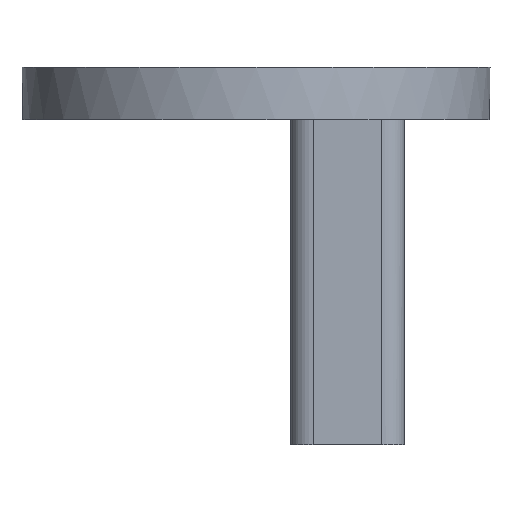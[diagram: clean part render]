
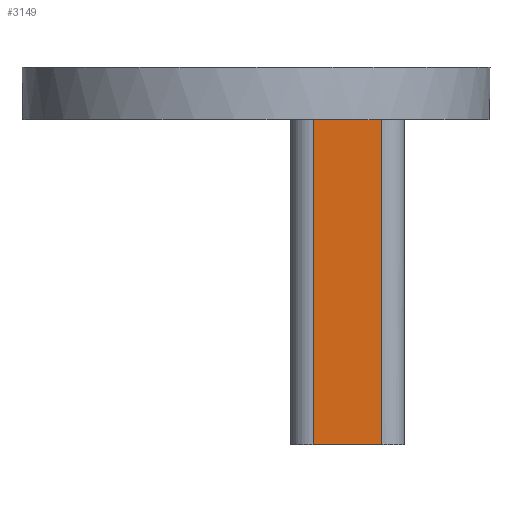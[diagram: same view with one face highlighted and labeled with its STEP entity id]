
A CAD part, left-side view. The second image highlights one B-rep face of the part: STEP entity #3149.
In plain terms, the highlighted planar face has unit normal (-1, 0, 0).
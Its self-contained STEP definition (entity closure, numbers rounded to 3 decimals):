
#243 = PLANE('',#244);
#244 = AXIS2_PLACEMENT_3D('',#245,#246,#247);
#245 = CARTESIAN_POINT('',(0.,0.,0.));
#246 = DIRECTION('',(0.,0.,1.));
#247 = DIRECTION('',(1.,0.,-0.));
#1060 = CYLINDRICAL_SURFACE('',#1061,2.);
#1061 = AXIS2_PLACEMENT_3D('',#1062,#1063,#1064);
#1062 = CARTESIAN_POINT('',(41.,-11.,-28.5));
#1063 = DIRECTION('',(0.,0.,1.));
#1064 = DIRECTION('',(-1.,-0.,0.));
#1114 = VERTEX_POINT('',#1115);
#1115 = CARTESIAN_POINT('',(39.,-11.,0.));
#1137 = EDGE_CURVE('',#1114,#1138,#1140,.T.);
#1138 = VERTEX_POINT('',#1139);
#1139 = CARTESIAN_POINT('',(39.,-5.,0.));
#1140 = SURFACE_CURVE('',#1141,(#1145,#1151),.PCURVE_S1.);
#1141 = LINE('',#1142,#1143);
#1142 = CARTESIAN_POINT('',(39.,-6.5,0.));
#1143 = VECTOR('',#1144,1.);
#1144 = DIRECTION('',(-0.,1.,0.));
#1145 = PCURVE('',#243,#1146);
#1146 = DEFINITIONAL_REPRESENTATION('',(#1147),#1150);
#1147 = B_SPLINE_CURVE_WITH_KNOTS('',1,(#1148,#1149),.UNSPECIFIED.,.F.,
  .F.,(2,2),(-4.5,1.5),.PIECEWISE_BEZIER_KNOTS.);
#1148 = CARTESIAN_POINT('',(39.,-11.));
#1149 = CARTESIAN_POINT('',(39.,-5.));
#1150 = ( GEOMETRIC_REPRESENTATION_CONTEXT(2) 
PARAMETRIC_REPRESENTATION_CONTEXT() REPRESENTATION_CONTEXT('2D SPACE',''
  ) );
#1151 = PCURVE('',#1152,#1157);
#1152 = PLANE('',#1153);
#1153 = AXIS2_PLACEMENT_3D('',#1154,#1155,#1156);
#1154 = CARTESIAN_POINT('',(39.,-13.,-28.5));
#1155 = DIRECTION('',(1.,0.,-0.));
#1156 = DIRECTION('',(0.,0.,1.));
#1157 = DEFINITIONAL_REPRESENTATION('',(#1158),#1161);
#1158 = B_SPLINE_CURVE_WITH_KNOTS('',1,(#1159,#1160),.UNSPECIFIED.,.F.,
  .F.,(2,2),(-4.5,1.5),.PIECEWISE_BEZIER_KNOTS.);
#1159 = CARTESIAN_POINT('',(28.5,-2.));
#1160 = CARTESIAN_POINT('',(28.5,-8.));
#1161 = ( GEOMETRIC_REPRESENTATION_CONTEXT(2) 
PARAMETRIC_REPRESENTATION_CONTEXT() REPRESENTATION_CONTEXT('2D SPACE',''
  ) );
#1180 = CYLINDRICAL_SURFACE('',#1181,2.);
#1181 = AXIS2_PLACEMENT_3D('',#1182,#1183,#1184);
#1182 = CARTESIAN_POINT('',(41.,-5.,-28.5));
#1183 = DIRECTION('',(0.,0.,1.));
#1184 = DIRECTION('',(-1.,-0.,0.));
#2759 = PLANE('',#2760);
#2760 = AXIS2_PLACEMENT_3D('',#2761,#2762,#2763);
#2761 = CARTESIAN_POINT('',(39.,-13.,-28.5));
#2762 = DIRECTION('',(0.,0.,1.));
#2763 = DIRECTION('',(1.,0.,-0.));
#3042 = EDGE_CURVE('',#3043,#1114,#3045,.T.);
#3043 = VERTEX_POINT('',#3044);
#3044 = CARTESIAN_POINT('',(39.,-11.,-28.5));
#3045 = SURFACE_CURVE('',#3046,(#3050,#3057),.PCURVE_S1.);
#3046 = LINE('',#3047,#3048);
#3047 = CARTESIAN_POINT('',(39.,-11.,-28.5));
#3048 = VECTOR('',#3049,1.);
#3049 = DIRECTION('',(0.,0.,1.));
#3050 = PCURVE('',#1060,#3051);
#3051 = DEFINITIONAL_REPRESENTATION('',(#3052),#3056);
#3052 = LINE('',#3053,#3054);
#3053 = CARTESIAN_POINT('',(0.,0.));
#3054 = VECTOR('',#3055,1.);
#3055 = DIRECTION('',(0.,1.));
#3056 = ( GEOMETRIC_REPRESENTATION_CONTEXT(2) 
PARAMETRIC_REPRESENTATION_CONTEXT() REPRESENTATION_CONTEXT('2D SPACE',''
  ) );
#3057 = PCURVE('',#1152,#3058);
#3058 = DEFINITIONAL_REPRESENTATION('',(#3059),#3063);
#3059 = LINE('',#3060,#3061);
#3060 = CARTESIAN_POINT('',(0.,-2.));
#3061 = VECTOR('',#3062,1.);
#3062 = DIRECTION('',(1.,0.));
#3063 = ( GEOMETRIC_REPRESENTATION_CONTEXT(2) 
PARAMETRIC_REPRESENTATION_CONTEXT() REPRESENTATION_CONTEXT('2D SPACE',''
  ) );
#3099 = EDGE_CURVE('',#3100,#1138,#3102,.T.);
#3100 = VERTEX_POINT('',#3101);
#3101 = CARTESIAN_POINT('',(39.,-5.,-28.5));
#3102 = SURFACE_CURVE('',#3103,(#3107,#3114),.PCURVE_S1.);
#3103 = LINE('',#3104,#3105);
#3104 = CARTESIAN_POINT('',(39.,-5.,-28.5));
#3105 = VECTOR('',#3106,1.);
#3106 = DIRECTION('',(0.,0.,1.));
#3107 = PCURVE('',#1180,#3108);
#3108 = DEFINITIONAL_REPRESENTATION('',(#3109),#3113);
#3109 = LINE('',#3110,#3111);
#3110 = CARTESIAN_POINT('',(-0.,0.));
#3111 = VECTOR('',#3112,1.);
#3112 = DIRECTION('',(-0.,1.));
#3113 = ( GEOMETRIC_REPRESENTATION_CONTEXT(2) 
PARAMETRIC_REPRESENTATION_CONTEXT() REPRESENTATION_CONTEXT('2D SPACE',''
  ) );
#3114 = PCURVE('',#1152,#3115);
#3115 = DEFINITIONAL_REPRESENTATION('',(#3116),#3120);
#3116 = LINE('',#3117,#3118);
#3117 = CARTESIAN_POINT('',(0.,-8.));
#3118 = VECTOR('',#3119,1.);
#3119 = DIRECTION('',(1.,0.));
#3120 = ( GEOMETRIC_REPRESENTATION_CONTEXT(2) 
PARAMETRIC_REPRESENTATION_CONTEXT() REPRESENTATION_CONTEXT('2D SPACE',''
  ) );
#3149 = ADVANCED_FACE('',(#3150),#1152,.F.);
#3150 = FACE_BOUND('',#3151,.F.);
#3151 = EDGE_LOOP('',(#3152,#3153,#3154,#3175));
#3152 = ORIENTED_EDGE('',*,*,#1137,.F.);
#3153 = ORIENTED_EDGE('',*,*,#3042,.F.);
#3154 = ORIENTED_EDGE('',*,*,#3155,.T.);
#3155 = EDGE_CURVE('',#3043,#3100,#3156,.T.);
#3156 = SURFACE_CURVE('',#3157,(#3161,#3168),.PCURVE_S1.);
#3157 = LINE('',#3158,#3159);
#3158 = CARTESIAN_POINT('',(39.,-13.,-28.5));
#3159 = VECTOR('',#3160,1.);
#3160 = DIRECTION('',(-0.,1.,0.));
#3161 = PCURVE('',#1152,#3162);
#3162 = DEFINITIONAL_REPRESENTATION('',(#3163),#3167);
#3163 = LINE('',#3164,#3165);
#3164 = CARTESIAN_POINT('',(0.,0.));
#3165 = VECTOR('',#3166,1.);
#3166 = DIRECTION('',(0.,-1.));
#3167 = ( GEOMETRIC_REPRESENTATION_CONTEXT(2) 
PARAMETRIC_REPRESENTATION_CONTEXT() REPRESENTATION_CONTEXT('2D SPACE',''
  ) );
#3168 = PCURVE('',#2759,#3169);
#3169 = DEFINITIONAL_REPRESENTATION('',(#3170),#3174);
#3170 = LINE('',#3171,#3172);
#3171 = CARTESIAN_POINT('',(0.,0.));
#3172 = VECTOR('',#3173,1.);
#3173 = DIRECTION('',(0.,1.));
#3174 = ( GEOMETRIC_REPRESENTATION_CONTEXT(2) 
PARAMETRIC_REPRESENTATION_CONTEXT() REPRESENTATION_CONTEXT('2D SPACE',''
  ) );
#3175 = ORIENTED_EDGE('',*,*,#3099,.T.);
